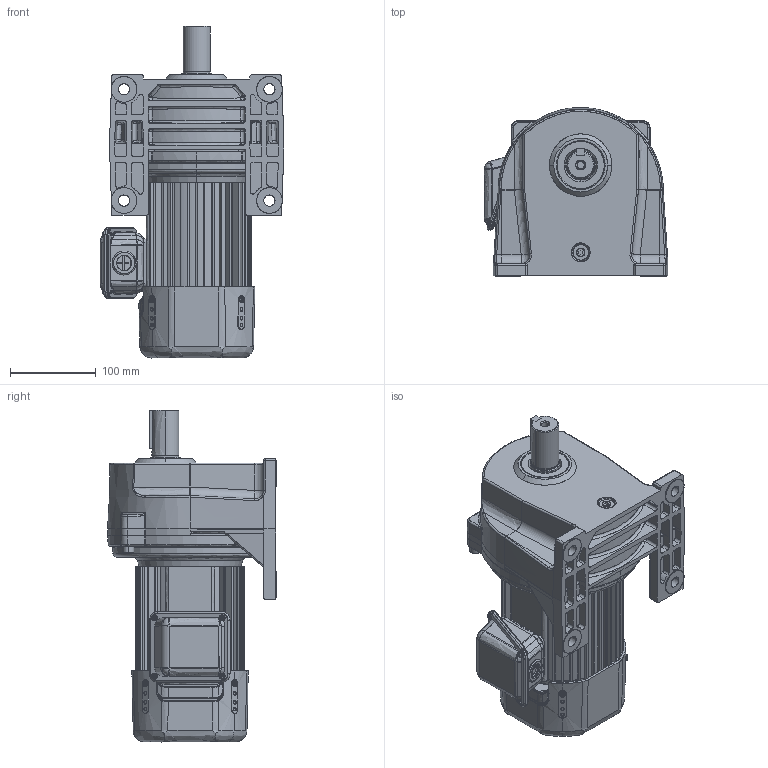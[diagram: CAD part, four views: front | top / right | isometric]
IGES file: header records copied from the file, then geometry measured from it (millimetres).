
Start section: SolidWorks IGES file using analytic representation for surfaces
Global section: file name: \\100.100.100.8\1_共有作業フォルダ\1-5_３Ｄデータ\solidworks\personal-folder\H.Nagayama\SGP1外形\P1(3D)\igs\TMLB2-04-(100~200).IGS; native system: SolidWorks 2018; preprocessor: SolidWorks 2018; author: sigma-giken; date: 200508.144448; units: millimetre
Bounding box: 215 x 197.5 x 388 mm (x, y, z)
Surface area: 559125.4 mm2 (no closed solid volume)
Topology: 0 solids, 0 shells, 1917 faces, 24621 edges, 24595 vertices
Faces by surface type: bspline 997, revolution 920
